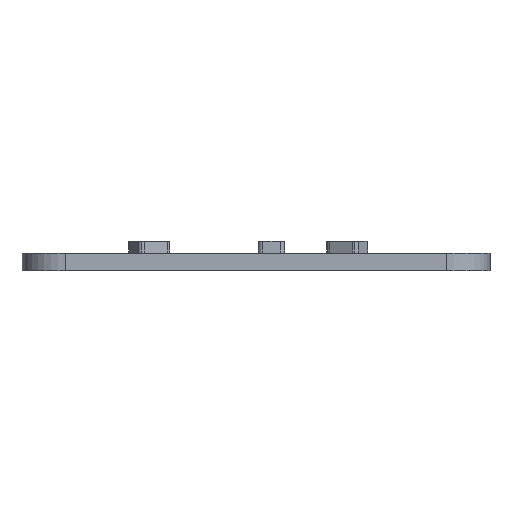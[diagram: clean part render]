
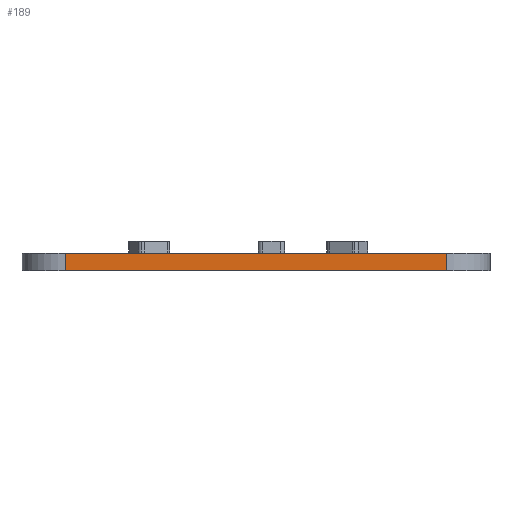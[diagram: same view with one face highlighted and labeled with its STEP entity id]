
A CAD part, left-side view. The second image highlights one B-rep face of the part: STEP entity #189.
In plain terms, the highlighted planar face has unit normal (-1, 0, 0).
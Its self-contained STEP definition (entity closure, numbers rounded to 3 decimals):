
#79 = CARTESIAN_POINT ( 'NONE',  ( -34.9, 0., 2.95 ) ) ;
#189 = ADVANCED_FACE ( 'NONE', ( #2216 ), #2644, .F. ) ;
#213 = ORIENTED_EDGE ( 'NONE', *, *, #601, .T. ) ;
#221 = CARTESIAN_POINT ( 'NONE',  ( -34.9, -21.9, 0. ) ) ;
#320 = CARTESIAN_POINT ( 'NONE',  ( -34.9, 21.904, 2. ) ) ;
#378 = VECTOR ( 'NONE', #1352, 1000. ) ;
#449 = ORIENTED_EDGE ( 'NONE', *, *, #3050, .T. ) ;
#523 = LINE ( 'NONE', #1838, #2192 ) ;
#536 = VERTEX_POINT ( 'NONE', #1093 ) ;
#601 = EDGE_CURVE ( 'NONE', #536, #1007, #523, .T. ) ;
#851 = DIRECTION ( 'NONE',  ( 0., 1., 0. ) ) ;
#933 = CARTESIAN_POINT ( 'NONE',  ( -34.9, -21.9, 2. ) ) ;
#934 = EDGE_LOOP ( 'NONE', ( #449, #1548, #213, #2605 ) ) ;
#948 = DIRECTION ( 'NONE',  ( 0., 0., -1. ) ) ;
#999 = EDGE_CURVE ( 'NONE', #1283, #536, #1397, .T. ) ;
#1007 = VERTEX_POINT ( 'NONE', #221 ) ;
#1008 = DIRECTION ( 'NONE',  ( 0., 1., 0. ) ) ;
#1093 = CARTESIAN_POINT ( 'NONE',  ( -34.9, 21.904, 0. ) ) ;
#1283 = VERTEX_POINT ( 'NONE', #320 ) ;
#1352 = DIRECTION ( 'NONE',  ( 0., 0., -1. ) ) ;
#1391 = CARTESIAN_POINT ( 'NONE',  ( -34.9, 0., 2. ) ) ;
#1397 = LINE ( 'NONE', #2337, #378 ) ;
#1548 = ORIENTED_EDGE ( 'NONE', *, *, #999, .T. ) ;
#1605 = DIRECTION ( 'NONE',  ( 0., -1., 0. ) ) ;
#1652 = VECTOR ( 'NONE', #948, 1000. ) ;
#1687 = CARTESIAN_POINT ( 'NONE',  ( -34.9, -21.9, 2.95 ) ) ;
#1838 = CARTESIAN_POINT ( 'NONE',  ( -34.9, 0., 0. ) ) ;
#1952 = AXIS2_PLACEMENT_3D ( 'NONE', #79, #2673, #1008 ) ;
#2192 = VECTOR ( 'NONE', #1605, 1000. ) ;
#2216 = FACE_OUTER_BOUND ( 'NONE', #934, .T. ) ;
#2337 = CARTESIAN_POINT ( 'NONE',  ( -34.9, 21.904, 2.95 ) ) ;
#2372 = VECTOR ( 'NONE', #851, 1000. ) ;
#2449 = EDGE_CURVE ( 'NONE', #2733, #1007, #2613, .T. ) ;
#2605 = ORIENTED_EDGE ( 'NONE', *, *, #2449, .F. ) ;
#2613 = LINE ( 'NONE', #1687, #1652 ) ;
#2644 = PLANE ( 'NONE',  #1952 ) ;
#2673 = DIRECTION ( 'NONE',  ( 1., 0., 0. ) ) ;
#2733 = VERTEX_POINT ( 'NONE', #933 ) ;
#2985 = LINE ( 'NONE', #1391, #2372 ) ;
#3050 = EDGE_CURVE ( 'NONE', #2733, #1283, #2985, .T. ) ;
